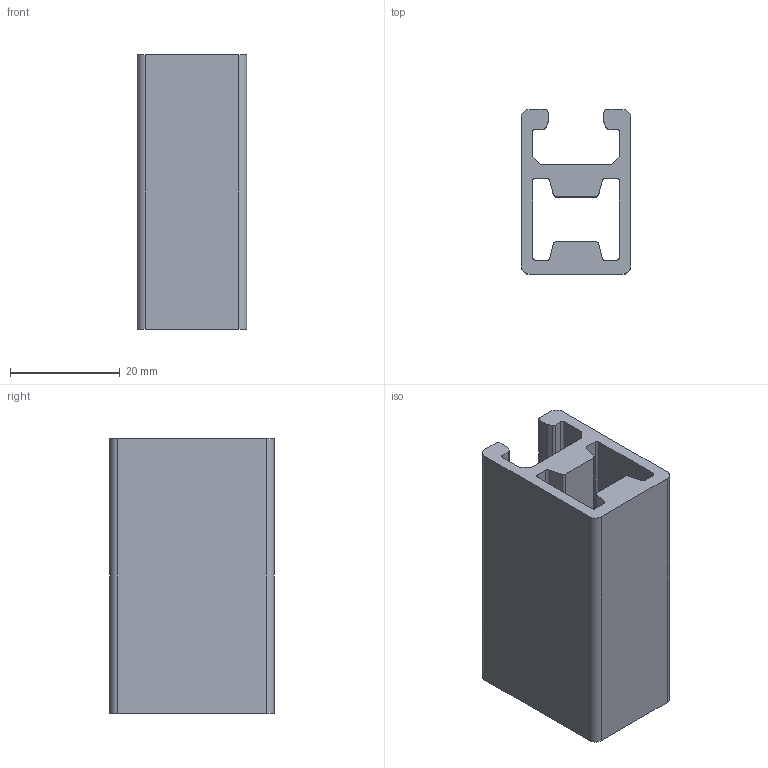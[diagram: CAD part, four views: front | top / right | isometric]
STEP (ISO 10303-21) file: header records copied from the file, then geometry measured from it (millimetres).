
FILE_DESCRIPTION(('STEP AP214'),'1');
FILE_NAME('F23M-.stp','2017-07-14T07:16:25',(' '),(' '),'Spatial InterOp 3D',' ',' ');
FILE_SCHEMA(('automotive_design'));
Length unit declared in the file: millimetre
Products named in the file (1): F23M-
Bounding box: 20 x 30 x 50 mm (x, y, z)
Volume: 14213.8 mm3; surface area: 10345.7 mm2
Topology: 1 solids, 1 shells, 58 faces, 168 edges, 112 vertices
Faces by surface type: plane 30, cylinder 28
Entity records: 2412 total; most frequent: DIRECTION 342, CARTESIAN_POINT 339, ORIENTED_EDGE 336, EDGE_CURVE 168, AXIS2_PLACEMENT_3D 115, VERTEX_POINT 112, LINE 112, VECTOR 112
